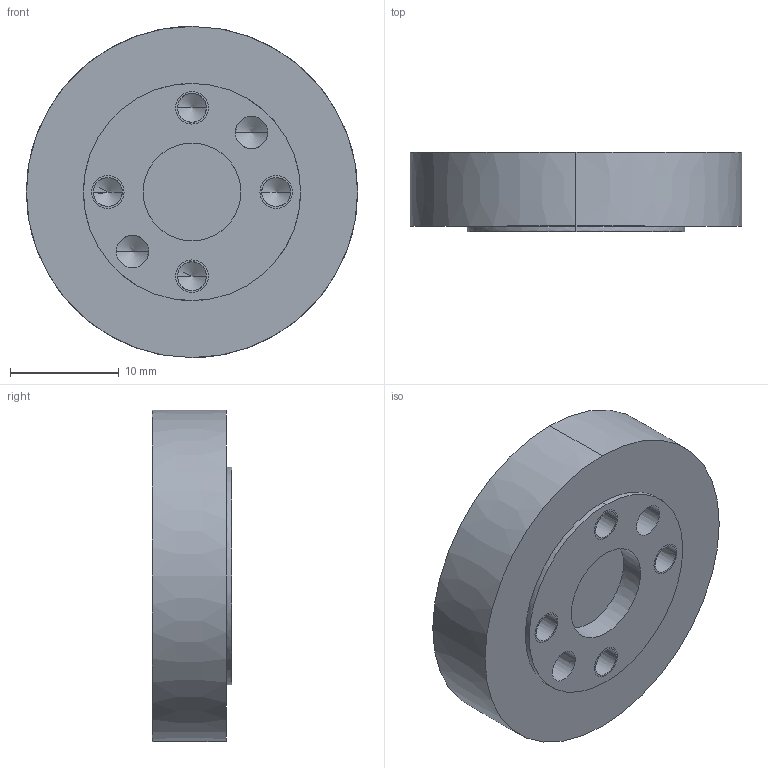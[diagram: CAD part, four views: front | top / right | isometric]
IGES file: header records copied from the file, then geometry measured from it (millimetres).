
Start section:  PTC IGES file: t_axis.igs
Global section: file name: t_axis.igs; native system: Creo Parametric by Parametric Technology Corporation; preprocessor: 2014200; author: HID; organization: Unknown; date: 20170926.172131; units: millimetre
Bounding box: 30.5 x 7.3 x 30.5 mm (x, y, z)
Volume: 4842.7 mm3; surface area: 2560.1 mm2
Topology: 1 solids, 5 shells, 46 faces, 110 edges, 66 vertices
Faces by surface type: bspline 46
